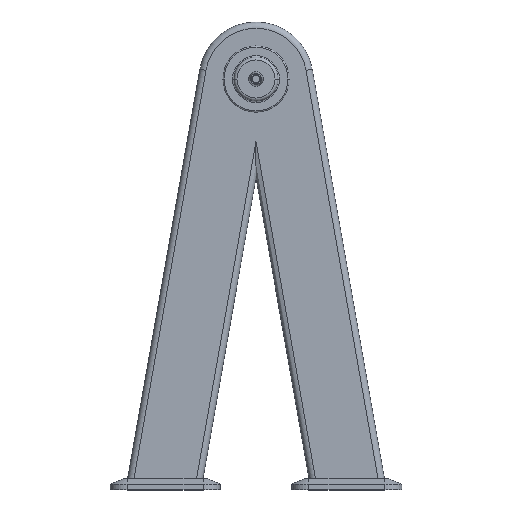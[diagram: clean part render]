
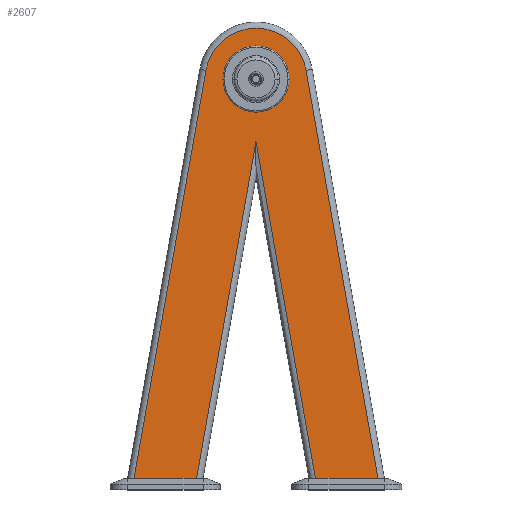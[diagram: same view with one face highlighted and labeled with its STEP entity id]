
A CAD part, top view. The second image highlights one B-rep face of the part: STEP entity #2607.
In plain terms, the highlighted planar face has unit normal (0, 0, 1).
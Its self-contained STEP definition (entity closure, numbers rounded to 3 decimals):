
#148 = VERTEX_POINT ( 'NONE', #1802 ) ;
#150 = EDGE_LOOP ( 'NONE', ( #2523, #1003 ) ) ;
#155 = CARTESIAN_POINT ( 'NONE',  ( 0., 720., 63. ) ) ;
#182 = EDGE_CURVE ( 'NONE', #1267, #649, #2568, .T. ) ;
#231 = CARTESIAN_POINT ( 'NONE',  ( -87.648, 735.455, 63. ) ) ;
#271 = CIRCLE ( 'NONE', #2639, 58. ) ;
#277 = DIRECTION ( 'NONE',  ( -0.174, -0.985, 0. ) ) ;
#285 = VERTEX_POINT ( 'NONE', #1094 ) ;
#314 = LINE ( 'NONE', #1645, #2513 ) ;
#321 = VERTEX_POINT ( 'NONE', #1038 ) ;
#324 = EDGE_CURVE ( 'NONE', #664, #1617, #1394, .T. ) ;
#330 = ORIENTED_EDGE ( 'NONE', *, *, #2058, .T. ) ;
#431 = DIRECTION ( 'NONE',  ( 1., 0., 0. ) ) ;
#491 = FACE_OUTER_BOUND ( 'NONE', #2596, .T. ) ;
#517 = CARTESIAN_POINT ( 'NONE',  ( 0., 20., 63. ) ) ;
#519 = ORIENTED_EDGE ( 'NONE', *, *, #2440, .T. ) ;
#544 = CARTESIAN_POINT ( 'NONE',  ( 58., 720., 63. ) ) ;
#569 = CARTESIAN_POINT ( 'NONE',  ( 0., 720., 63. ) ) ;
#649 = VERTEX_POINT ( 'NONE', #2003 ) ;
#664 = VERTEX_POINT ( 'NONE', #2039 ) ;
#701 = VERTEX_POINT ( 'NONE', #1943 ) ;
#732 = VECTOR ( 'NONE', #941, 1000. ) ;
#847 = EDGE_CURVE ( 'NONE', #285, #701, #314, .T. ) ;
#858 = DIRECTION ( 'NONE',  ( 1., 0., 0. ) ) ;
#881 = AXIS2_PLACEMENT_3D ( 'NONE', #1206, #1192, #2710 ) ;
#899 = CARTESIAN_POINT ( 'NONE',  ( 0., 20., 63. ) ) ;
#938 = DIRECTION ( 'NONE',  ( -0.174, 0.985, 0. ) ) ;
#941 = DIRECTION ( 'NONE',  ( -1., 0., 0. ) ) ;
#946 = CARTESIAN_POINT ( 'NONE',  ( 87.648, 735.455, 63. ) ) ;
#995 = LINE ( 'NONE', #1747, #2515 ) ;
#1003 = ORIENTED_EDGE ( 'NONE', *, *, #182, .F. ) ;
#1038 = CARTESIAN_POINT ( 'NONE',  ( 87.648, 735.455, 63. ) ) ;
#1094 = CARTESIAN_POINT ( 'NONE',  ( 0., 610.583, 63. ) ) ;
#1134 = EDGE_CURVE ( 'NONE', #148, #321, #2374, .T. ) ;
#1163 = ORIENTED_EDGE ( 'NONE', *, *, #2365, .F. ) ;
#1180 = LINE ( 'NONE', #1784, #2245 ) ;
#1192 = DIRECTION ( 'NONE',  ( 0., 0., 1. ) ) ;
#1206 = CARTESIAN_POINT ( 'NONE',  ( 0., 720., 63. ) ) ;
#1267 = VERTEX_POINT ( 'NONE', #544 ) ;
#1387 = CARTESIAN_POINT ( 'NONE',  ( 0., 720., 63. ) ) ;
#1394 = LINE ( 'NONE', #899, #732 ) ;
#1410 = DIRECTION ( 'NONE',  ( 1., 0., 0. ) ) ;
#1422 = PLANE ( 'NONE',  #881 ) ;
#1424 = DIRECTION ( 'NONE',  ( 0., 0., 1. ) ) ;
#1448 = VECTOR ( 'NONE', #1913, 1000. ) ;
#1507 = EDGE_CURVE ( 'NONE', #2387, #1617, #995, .T. ) ;
#1588 = DIRECTION ( 'NONE',  ( 0.174, -0.985, 0. ) ) ;
#1617 = VERTEX_POINT ( 'NONE', #2185 ) ;
#1645 = CARTESIAN_POINT ( 'NONE',  ( 110.248, -14.664, 63. ) ) ;
#1700 = EDGE_CURVE ( 'NONE', #649, #1267, #271, .T. ) ;
#1747 = CARTESIAN_POINT ( 'NONE',  ( -218.723, -7.91, 63. ) ) ;
#1778 = ORIENTED_EDGE ( 'NONE', *, *, #1507, .T. ) ;
#1784 = CARTESIAN_POINT ( 'NONE',  ( -10.833, 549.147, 63. ) ) ;
#1802 = CARTESIAN_POINT ( 'NONE',  ( 213.802, 20., 63. ) ) ;
#1862 = DIRECTION ( 'NONE',  ( 0., 0., 1. ) ) ;
#1913 = DIRECTION ( 'NONE',  ( -1., 0., 0. ) ) ;
#1943 = CARTESIAN_POINT ( 'NONE',  ( 104.136, 20., 63. ) ) ;
#2003 = CARTESIAN_POINT ( 'NONE',  ( -58., 720., 63. ) ) ;
#2039 = CARTESIAN_POINT ( 'NONE',  ( -104.136, 20., 63. ) ) ;
#2058 = EDGE_CURVE ( 'NONE', #664, #285, #1180, .T. ) ;
#2100 = AXIS2_PLACEMENT_3D ( 'NONE', #1387, #1424, #1410 ) ;
#2124 = ORIENTED_EDGE ( 'NONE', *, *, #324, .F. ) ;
#2146 = DIRECTION ( 'NONE',  ( 0., 0., 1. ) ) ;
#2185 = CARTESIAN_POINT ( 'NONE',  ( -213.802, 20., 63. ) ) ;
#2245 = VECTOR ( 'NONE', #2667, 1000. ) ;
#2365 = EDGE_CURVE ( 'NONE', #148, #701, #2455, .T. ) ;
#2374 = LINE ( 'NONE', #946, #2540 ) ;
#2387 = VERTEX_POINT ( 'NONE', #231 ) ;
#2440 = EDGE_CURVE ( 'NONE', #321, #2387, #2689, .T. ) ;
#2455 = LINE ( 'NONE', #517, #1448 ) ;
#2513 = VECTOR ( 'NONE', #1588, 1000. ) ;
#2515 = VECTOR ( 'NONE', #277, 1000. ) ;
#2523 = ORIENTED_EDGE ( 'NONE', *, *, #1700, .F. ) ;
#2540 = VECTOR ( 'NONE', #938, 1000. ) ;
#2568 = CIRCLE ( 'NONE', #2100, 58. ) ;
#2596 = EDGE_LOOP ( 'NONE', ( #2124, #330, #2624, #1163, #2674, #519, #1778 ) ) ;
#2607 = ADVANCED_FACE ( 'NONE', ( #2660, #491 ), #1422, .T. ) ;
#2624 = ORIENTED_EDGE ( 'NONE', *, *, #847, .T. ) ;
#2639 = AXIS2_PLACEMENT_3D ( 'NONE', #155, #1862, #431 ) ;
#2660 = FACE_BOUND ( 'NONE', #150, .T. ) ;
#2667 = DIRECTION ( 'NONE',  ( 0.174, 0.985, 0. ) ) ;
#2674 = ORIENTED_EDGE ( 'NONE', *, *, #1134, .T. ) ;
#2689 = CIRCLE ( 'NONE', #2811, 89. ) ;
#2710 = DIRECTION ( 'NONE',  ( 1., 0., 0. ) ) ;
#2811 = AXIS2_PLACEMENT_3D ( 'NONE', #569, #2146, #858 ) ;
